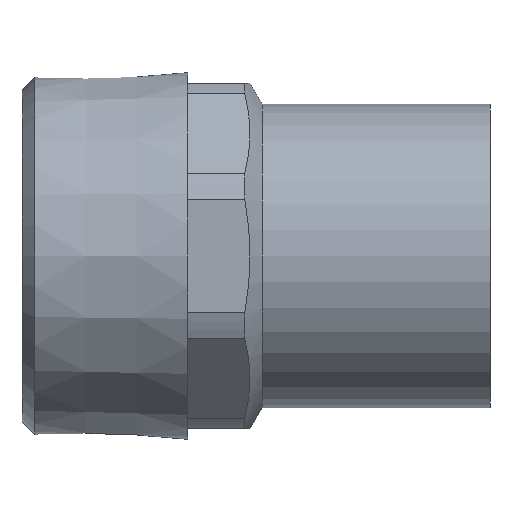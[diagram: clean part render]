
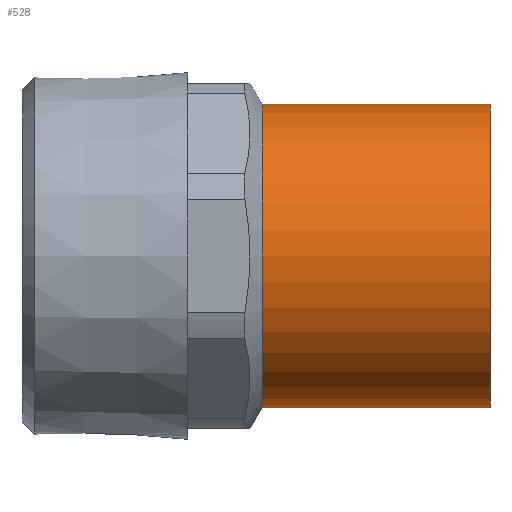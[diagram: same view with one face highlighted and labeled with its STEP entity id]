
A CAD part, front view. The second image highlights one B-rep face of the part: STEP entity #528.
In plain terms, the highlighted cylindrical face has radius 17.5 mm (diameter 35 mm), a full revolution.
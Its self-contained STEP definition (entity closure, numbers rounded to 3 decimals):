
#36=CIRCLE('',#580,17.5);
#37=CIRCLE('',#581,17.5);
#53=CIRCLE('',#606,17.5);
#54=CIRCLE('',#607,17.5);
#65=CYLINDRICAL_SURFACE('',#605,17.5);
#90=FACE_OUTER_BOUND('',#119,.T.);
#119=EDGE_LOOP('',(#482,#483,#484,#485,#486,#487));
#167=LINE('',#952,#197);
#197=VECTOR('',#756,17.5);
#238=VERTEX_POINT('',#902);
#239=VERTEX_POINT('',#903);
#253=VERTEX_POINT('',#948);
#254=VERTEX_POINT('',#949);
#309=EDGE_CURVE('',#238,#239,#36,.T.);
#310=EDGE_CURVE('',#239,#238,#37,.T.);
#331=EDGE_CURVE('',#253,#254,#53,.T.);
#332=EDGE_CURVE('',#254,#253,#54,.T.);
#333=EDGE_CURVE('',#254,#239,#167,.T.);
#482=ORIENTED_EDGE('',*,*,#331,.F.);
#483=ORIENTED_EDGE('',*,*,#332,.F.);
#484=ORIENTED_EDGE('',*,*,#333,.T.);
#485=ORIENTED_EDGE('',*,*,#310,.T.);
#486=ORIENTED_EDGE('',*,*,#309,.T.);
#487=ORIENTED_EDGE('',*,*,#333,.F.);
#528=ADVANCED_FACE('',(#90),#65,.T.);
#580=AXIS2_PLACEMENT_3D('',#904,#695,#696);
#581=AXIS2_PLACEMENT_3D('',#905,#697,#698);
#605=AXIS2_PLACEMENT_3D('',#947,#750,#751);
#606=AXIS2_PLACEMENT_3D('',#950,#752,#753);
#607=AXIS2_PLACEMENT_3D('',#951,#754,#755);
#695=DIRECTION('center_axis',(1.,0.,0.));
#696=DIRECTION('ref_axis',(0.,1.,0.));
#697=DIRECTION('center_axis',(1.,0.,0.));
#698=DIRECTION('ref_axis',(0.,1.,0.));
#750=DIRECTION('center_axis',(1.,0.,0.));
#751=DIRECTION('ref_axis',(0.,1.,0.));
#752=DIRECTION('center_axis',(1.,0.,0.));
#753=DIRECTION('ref_axis',(0.,1.,0.));
#754=DIRECTION('center_axis',(1.,0.,0.));
#755=DIRECTION('ref_axis',(0.,1.,0.));
#756=DIRECTION('',(-1.,0.,0.));
#902=CARTESIAN_POINT('',(27.721,17.5,0.));
#903=CARTESIAN_POINT('',(27.721,-17.5,0.));
#904=CARTESIAN_POINT('Origin',(27.721,0.,0.));
#905=CARTESIAN_POINT('Origin',(27.721,0.,0.));
#947=CARTESIAN_POINT('Origin',(40.86,0.,0.));
#948=CARTESIAN_POINT('',(54.,17.5,0.));
#949=CARTESIAN_POINT('',(54.,-17.5,0.));
#950=CARTESIAN_POINT('Origin',(54.,0.,0.));
#951=CARTESIAN_POINT('Origin',(54.,0.,0.));
#952=CARTESIAN_POINT('',(40.86,-17.5,0.));
